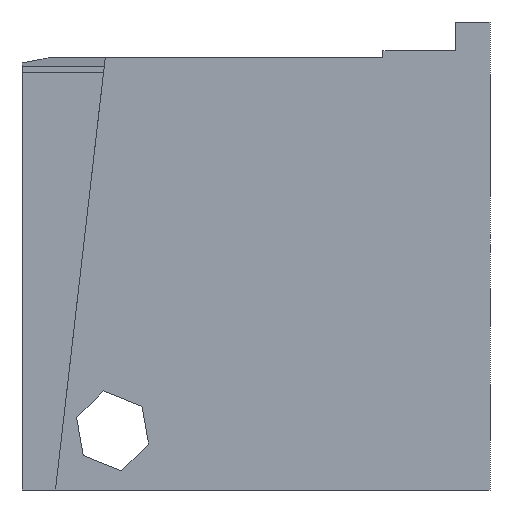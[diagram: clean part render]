
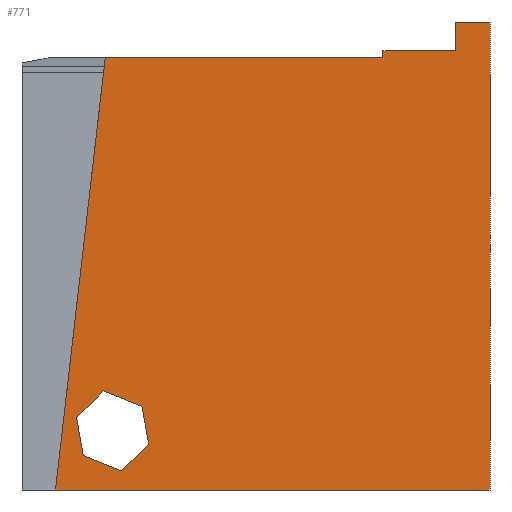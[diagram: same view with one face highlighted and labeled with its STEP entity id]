
A CAD part, front view. The second image highlights one B-rep face of the part: STEP entity #771.
In plain terms, the highlighted planar face has unit normal (0, -1, 0).
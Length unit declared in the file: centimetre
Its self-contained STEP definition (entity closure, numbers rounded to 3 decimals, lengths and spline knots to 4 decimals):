
#1 = DIRECTION ( 'NONE',  ( 0., 0., -1. ) ) ;
#7 = LINE ( 'NONE', #469, #819 ) ;
#9 = CARTESIAN_POINT ( 'NONE',  ( 174.3733, 0., 211.8642 ) ) ;
#10 = VECTOR ( 'NONE', #1483, 100. ) ;
#22 = ORIENTED_EDGE ( 'NONE', *, *, #1505, .T. ) ;
#27 = DIRECTION ( 'NONE',  ( 0.707, 0., 0.707 ) ) ;
#32 = VERTEX_POINT ( 'NONE', #615 ) ;
#33 = CARTESIAN_POINT ( 'NONE',  ( 926.7363, 0., 938.2798 ) ) ;
#53 = VECTOR ( 'NONE', #27, 100. ) ;
#65 = ORIENTED_EDGE ( 'NONE', *, *, #210, .F. ) ;
#73 = ORIENTED_EDGE ( 'NONE', *, *, #1125, .F. ) ;
#80 = CARTESIAN_POINT ( 'NONE',  ( 0., 0., 1000. ) ) ;
#95 = LINE ( 'NONE', #872, #1244 ) ;
#165 = VECTOR ( 'NONE', #587, 100. ) ;
#182 = EDGE_CURVE ( 'NONE', #1135, #1080, #1127, .T. ) ;
#210 = EDGE_CURVE ( 'NONE', #32, #1243, #1391, .T. ) ;
#217 = LINE ( 'NONE', #325, #1525 ) ;
#221 = CARTESIAN_POINT ( 'NONE',  ( 256.3002, 0., 178.8222 ) ) ;
#223 = CARTESIAN_POINT ( 'NONE',  ( 174.3733, 0., 211.8642 ) ) ;
#231 = DIRECTION ( 'NONE',  ( 1., 0., 0. ) ) ;
#238 = CARTESIAN_POINT ( 'NONE',  ( 1000., 0., 0. ) ) ;
#239 = CARTESIAN_POINT ( 'NONE',  ( 212.8656, 0., 40.6172 ) ) ;
#240 = VERTEX_POINT ( 'NONE', #311 ) ;
#241 = VERTEX_POINT ( 'NONE', #780 ) ;
#269 = EDGE_CURVE ( 'NONE', #812, #1418, #298, .T. ) ;
#298 = LINE ( 'NONE', #767, #906 ) ;
#308 = VECTOR ( 'NONE', #1319, 100. ) ;
#311 = CARTESIAN_POINT ( 'NONE',  ( 270.4967, 0., 98.2483 ) ) ;
#325 = CARTESIAN_POINT ( 'NONE',  ( 771.3264, 0., 924.7253 ) ) ;
#345 = ORIENTED_EDGE ( 'NONE', *, *, #713, .T. ) ;
#363 = ORIENTED_EDGE ( 'NONE', *, *, #1022, .F. ) ;
#364 = LINE ( 'NONE', #688, #1457 ) ;
#376 = ORIENTED_EDGE ( 'NONE', *, *, #1034, .T. ) ;
#377 = CARTESIAN_POINT ( 'NONE',  ( 0., 0., 1000. ) ) ;
#396 = CARTESIAN_POINT ( 'NONE',  ( 926.7363, 0., 938.2798 ) ) ;
#437 = VERTEX_POINT ( 'NONE', #396 ) ;
#453 = LINE ( 'NONE', #221, #510 ) ;
#460 = DIRECTION ( 'NONE',  ( 0.927, 0., -0.374 ) ) ;
#469 = CARTESIAN_POINT ( 'NONE',  ( 1000., 0., 1000. ) ) ;
#510 = VECTOR ( 'NONE', #575, 100. ) ;
#561 = EDGE_CURVE ( 'NONE', #437, #1243, #95, .T. ) ;
#575 = DIRECTION ( 'NONE',  ( 0.174, 0., -0.985 ) ) ;
#587 = DIRECTION ( 'NONE',  ( -0.927, 0., 0.374 ) ) ;
#593 = LINE ( 'NONE', #835, #165 ) ;
#605 = FACE_OUTER_BOUND ( 'NONE', #650, .T. ) ;
#608 = VECTOR ( 'NONE', #660, 100. ) ;
#615 = CARTESIAN_POINT ( 'NONE',  ( 771.3264, 0., 924.7253 ) ) ;
#617 = CARTESIAN_POINT ( 'NONE',  ( 130.9387, 0., 73.6592 ) ) ;
#626 = ORIENTED_EDGE ( 'NONE', *, *, #1383, .T. ) ;
#627 = LINE ( 'NONE', #617, #1200 ) ;
#644 = EDGE_CURVE ( 'NONE', #32, #732, #217, .T. ) ;
#650 = EDGE_LOOP ( 'NONE', ( #65, #699, #363, #1400, #910, #1218, #73, #996 ) ) ;
#658 = CARTESIAN_POINT ( 'NONE',  ( 771.3264, 0., 938.2798 ) ) ;
#660 = DIRECTION ( 'NONE',  ( 1., 0., 0. ) ) ;
#688 = CARTESIAN_POINT ( 'NONE',  ( 186.6232, 0., 1000. ) ) ;
#694 = VERTEX_POINT ( 'NONE', #223 ) ;
#697 = CARTESIAN_POINT ( 'NONE',  ( 130.9387, 0., 73.6592 ) ) ;
#699 = ORIENTED_EDGE ( 'NONE', *, *, #644, .T. ) ;
#713 = EDGE_CURVE ( 'NONE', #240, #855, #1393, .T. ) ;
#724 = CARTESIAN_POINT ( 'NONE',  ( 256.3002, 0., 178.8222 ) ) ;
#726 = CARTESIAN_POINT ( 'NONE',  ( 270.4967, 0., 98.2483 ) ) ;
#732 = VERTEX_POINT ( 'NONE', #1204 ) ;
#737 = LINE ( 'NONE', #33, #10 ) ;
#767 = CARTESIAN_POINT ( 'NONE',  ( 0., 0., 0. ) ) ;
#771 = ADVANCED_FACE ( 'NONE', ( #927, #605 ), #1081, .F. ) ;
#780 = CARTESIAN_POINT ( 'NONE',  ( 116.7421, 0., 154.2331 ) ) ;
#789 = CARTESIAN_POINT ( 'NONE',  ( 771.3264, 0., 924.7253 ) ) ;
#791 = DIRECTION ( 'NONE',  ( -1., 0., 0. ) ) ;
#812 = VERTEX_POINT ( 'NONE', #1453 ) ;
#819 = VECTOR ( 'NONE', #1, 100. ) ;
#835 = CARTESIAN_POINT ( 'NONE',  ( 212.8656, 0., 40.6172 ) ) ;
#855 = VERTEX_POINT ( 'NONE', #239 ) ;
#872 = CARTESIAN_POINT ( 'NONE',  ( 926.7363, 0., 938.2798 ) ) ;
#906 = VECTOR ( 'NONE', #231, 100. ) ;
#910 = ORIENTED_EDGE ( 'NONE', *, *, #1052, .F. ) ;
#927 = FACE_BOUND ( 'NONE', #983, .T. ) ;
#957 = LINE ( 'NONE', #1229, #53 ) ;
#983 = EDGE_LOOP ( 'NONE', ( #1047, #626, #345, #376, #1305, #22 ) ) ;
#996 = ORIENTED_EDGE ( 'NONE', *, *, #561, .T. ) ;
#998 = DIRECTION ( 'NONE',  ( -1., 0., 0. ) ) ;
#1022 = EDGE_CURVE ( 'NONE', #812, #732, #364, .T. ) ;
#1034 = EDGE_CURVE ( 'NONE', #855, #1445, #593, .T. ) ;
#1047 = ORIENTED_EDGE ( 'NONE', *, *, #1442, .T. ) ;
#1052 = EDGE_CURVE ( 'NONE', #1080, #1418, #7, .T. ) ;
#1080 = VERTEX_POINT ( 'NONE', #1433 ) ;
#1081 = PLANE ( 'NONE',  #1384 ) ;
#1095 = DIRECTION ( 'NONE',  ( -0.174, 0., 0.985 ) ) ;
#1125 = EDGE_CURVE ( 'NONE', #437, #1135, #737, .T. ) ;
#1127 = LINE ( 'NONE', #80, #608 ) ;
#1135 = VERTEX_POINT ( 'NONE', #1245 ) ;
#1136 = EDGE_CURVE ( 'NONE', #1445, #241, #627, .T. ) ;
#1164 = LINE ( 'NONE', #9, #1365 ) ;
#1184 = DIRECTION ( 'NONE',  ( 0.114, 0., 0.993 ) ) ;
#1200 = VECTOR ( 'NONE', #1095, 100. ) ;
#1204 = CARTESIAN_POINT ( 'NONE',  ( 177.9595, 0., 924.7253 ) ) ;
#1218 = ORIENTED_EDGE ( 'NONE', *, *, #182, .F. ) ;
#1229 = CARTESIAN_POINT ( 'NONE',  ( 116.7421, 0., 154.2331 ) ) ;
#1241 = VECTOR ( 'NONE', #1272, 100. ) ;
#1243 = VERTEX_POINT ( 'NONE', #658 ) ;
#1244 = VECTOR ( 'NONE', #998, 100. ) ;
#1245 = CARTESIAN_POINT ( 'NONE',  ( 926.7363, 0., 1000. ) ) ;
#1272 = DIRECTION ( 'NONE',  ( 0., 0., 1. ) ) ;
#1305 = ORIENTED_EDGE ( 'NONE', *, *, #1136, .T. ) ;
#1319 = DIRECTION ( 'NONE',  ( -0.707, 0., -0.707 ) ) ;
#1365 = VECTOR ( 'NONE', #460, 100. ) ;
#1383 = EDGE_CURVE ( 'NONE', #1547, #240, #453, .T. ) ;
#1384 = AXIS2_PLACEMENT_3D ( 'NONE', #377, #1429, #1422 ) ;
#1391 = LINE ( 'NONE', #789, #1241 ) ;
#1393 = LINE ( 'NONE', #726, #308 ) ;
#1400 = ORIENTED_EDGE ( 'NONE', *, *, #269, .T. ) ;
#1418 = VERTEX_POINT ( 'NONE', #238 ) ;
#1422 = DIRECTION ( 'NONE',  ( 0., 0., 1. ) ) ;
#1429 = DIRECTION ( 'NONE',  ( 0., 1., 0. ) ) ;
#1433 = CARTESIAN_POINT ( 'NONE',  ( 1000., 0., 1000. ) ) ;
#1442 = EDGE_CURVE ( 'NONE', #694, #1547, #1164, .T. ) ;
#1445 = VERTEX_POINT ( 'NONE', #697 ) ;
#1453 = CARTESIAN_POINT ( 'NONE',  ( 71.5281, 0., 0. ) ) ;
#1457 = VECTOR ( 'NONE', #1184, 100. ) ;
#1483 = DIRECTION ( 'NONE',  ( 0., 0., 1. ) ) ;
#1505 = EDGE_CURVE ( 'NONE', #241, #694, #957, .T. ) ;
#1525 = VECTOR ( 'NONE', #791, 100. ) ;
#1547 = VERTEX_POINT ( 'NONE', #724 ) ;
